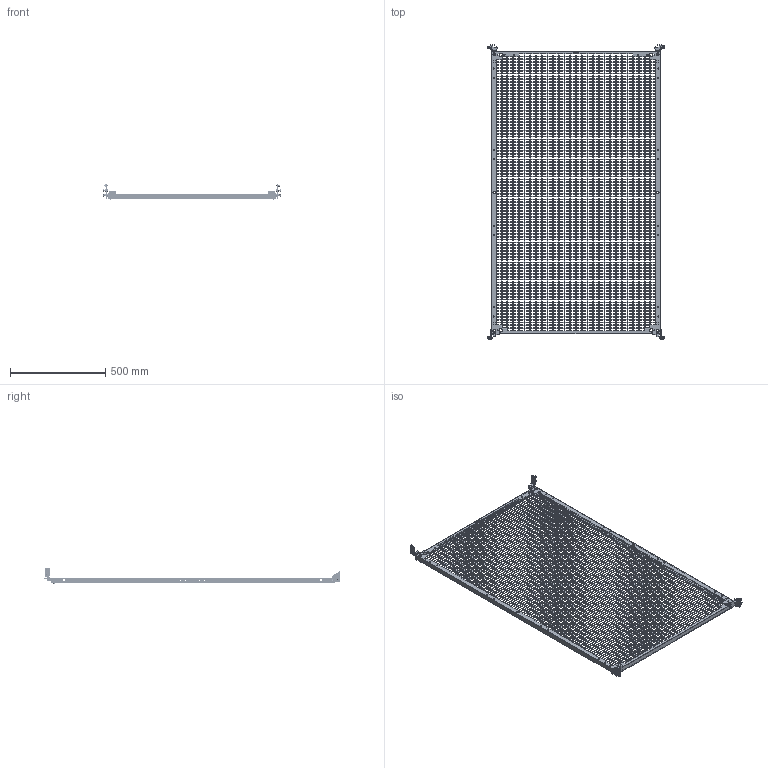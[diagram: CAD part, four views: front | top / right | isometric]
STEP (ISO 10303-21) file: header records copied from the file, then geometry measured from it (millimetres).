
FILE_DESCRIPTION (( 'STEP AP203' ), '1' );
FILE_NAME ('R5NPCEP16100.STEP', '2025-03-26T09:04:00', ( '' ), ( '' ), 'SwSTEP 2.0', 'SolidWorks 2022', '' );
FILE_SCHEMA (( 'CONFIG_CONTROL_DESIGN' ));
Length unit declared in the file: millimetre
Products named in the file (20): RB.2709.00.00.0; RB.2684.00.00.0 СБ; RB.2697.00.00.0; 003-006-19 GOST 9833-73; RB.2684.00.01.0; M6 MGR-MKO-0625_1,5mm (thread); RB.1499.00.03.0; М6 D87181 Zinc_In a tightened position (1.5 mm); RB.2814.00.01.0_-01; RB.2684.00.00.0 СБ_-01; R5NPCEP16100; RB.2814.00.00.0 СБ_-01; RB.2814.00.01.0; RB.2628.00.00.0_-16; RB.2684.00.03.0; M6x16 DIN 912 HX cl.4,8 Zinc_thread; RB.2814.00.00.0 СБ; AC00C237; RB.2684.00.01.0_-01; M6x16 DIN 7985 Torx cl.8,8 Zinc_stright
Assembly tree (43 placements, depth 3):
  R5NPCEP16100
    RB.2628.00.00.0_-16
    RB.2814.00.00.0 СБ_-01
      RB.2814.00.01.0_-01
      M6 MGR-MKO-0625_1,5mm (thread)
    RB.2814.00.00.0 СБ
      RB.2814.00.01.0
      M6 MGR-MKO-0625_1,5mm (thread)
    M6x16 DIN 912 HX cl.4,8 Zinc_thread  x2
    AC00C237  x2
    RB.2684.00.00.0 СБ_-01
      RB.2684.00.01.0_-01
      RB.2684.00.03.0
      RB.1499.00.03.0
      RB.2697.00.00.0
      003-006-19 GOST 9833-73  x2
    RB.2684.00.00.0 СБ
      RB.2684.00.01.0
      RB.2684.00.03.0
      RB.1499.00.03.0
      003-006-19 GOST 9833-73  x2
      RB.2697.00.00.0
    M6x16 DIN 7985 Torx cl.8,8 Zinc_stright  x8
    М6 D87181 Zinc_In a tightened position (1.5 mm)  x8
    RB.2709.00.00.0  x2
Bounding box: 928.3 x 1550.46 x 84.5 mm (x, y, z)
Volume: 1892457 mm3; surface area: 2033855.9 mm2
Topology: 39 solids, 39 shells, 13075 faces, 38469 edges, 25403 vertices
Faces by surface type: plane 11934, cylinder 514, bspline 301, cone 186, torus 132, sphere 8
Full cylindrical faces by diameter (mm): 0.6 x12, 2.3 x4, 2.5 x4, 3.8 x6, 4 x2, 4.2 x4, 4.92 x14, 5 x16, 6 x60, 6.5 x8, 6.7 x2, 7 x12, 7.5 x2, 8 x4, 8.3 x8, 9 x6, 10 x4, 12 x26, 15 x6
Entity records: 398711 total; most frequent: CARTESIAN_POINT 73391, ORIENTED_EDGE 68820, DIRECTION 57923, EDGE_CURVE 34410, VECTOR 33781, LINE 33781, VERTEX_POINT 23008, EDGE_LOOP 17434
